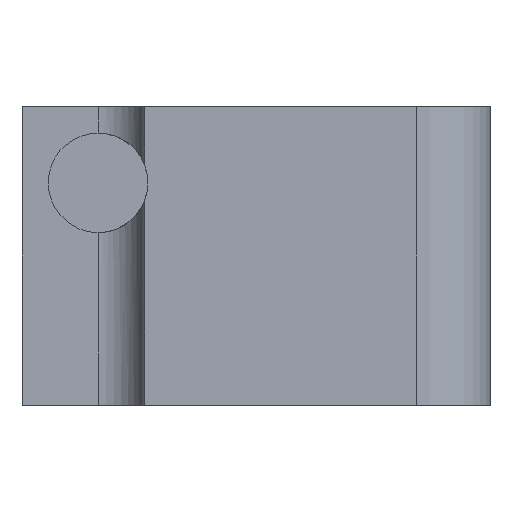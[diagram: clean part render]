
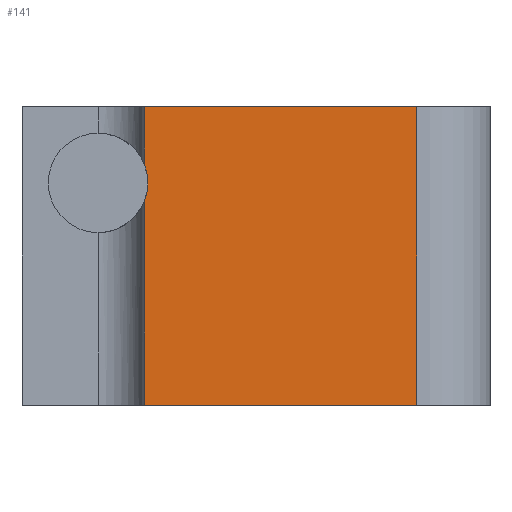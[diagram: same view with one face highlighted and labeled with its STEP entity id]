
A CAD part, front view. The second image highlights one B-rep face of the part: STEP entity #141.
In plain terms, the highlighted planar face has unit normal (0, -1, 0).
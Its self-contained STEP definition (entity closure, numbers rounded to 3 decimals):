
#141 = ADVANCED_FACE( '', ( #291 ), #292, .T. );
#291 = FACE_OUTER_BOUND( '', #450, .T. );
#292 = PLANE( '', #451 );
#450 = EDGE_LOOP( '', ( #967, #968, #969, #970, #971, #972, #973 ) );
#451 = AXIS2_PLACEMENT_3D( '', #974, #975, #976 );
#967 = ORIENTED_EDGE( '', *, *, #1166, .T. );
#968 = ORIENTED_EDGE( '', *, *, #1044, .T. );
#969 = ORIENTED_EDGE( '', *, *, #1205, .F. );
#970 = ORIENTED_EDGE( '', *, *, #1206, .T. );
#971 = ORIENTED_EDGE( '', *, *, #1203, .T. );
#972 = ORIENTED_EDGE( '', *, *, #1207, .T. );
#973 = ORIENTED_EDGE( '', *, *, #1177, .F. );
#974 = CARTESIAN_POINT( '', ( 10.9, -3.5, -7.6 ) );
#975 = DIRECTION( '', ( 0., -1., 0. ) );
#976 = DIRECTION( '', ( 1., 0., 0. ) );
#1044 = EDGE_CURVE( '', #1230, #1228, #1231, .T. );
#1166 = EDGE_CURVE( '', #1434, #1230, #1435, .T. );
#1177 = EDGE_CURVE( '', #1434, #1453, #1454, .T. );
#1203 = EDGE_CURVE( '', #1495, #1493, #1496, .T. );
#1205 = EDGE_CURVE( '', #1498, #1228, #1499, .T. );
#1206 = EDGE_CURVE( '', #1498, #1495, #1500, .T. );
#1207 = EDGE_CURVE( '', #1493, #1453, #1501, .T. );
#1228 = VERTEX_POINT( '', #1543 );
#1230 = VERTEX_POINT( '', #1546 );
#1231 = CIRCLE( '', #1547, 1.7 );
#1434 = VERTEX_POINT( '', #1825 );
#1435 = CIRCLE( '', #1826, 1.7 );
#1453 = VERTEX_POINT( '', #1868 );
#1454 = LINE( '', #1869, #1870 );
#1493 = VERTEX_POINT( '', #1923 );
#1495 = VERTEX_POINT( '', #1925 );
#1496 = LINE( '', #1926, #1927 );
#1498 = VERTEX_POINT( '', #1929 );
#1499 = LINE( '', #1930, #1931 );
#1500 = LINE( '', #1932, #1933 );
#1501 = LINE( '', #1934, #1935 );
#1543 = CARTESIAN_POINT( '', ( 1.6, -3.5, -0.574 ) );
#1546 = CARTESIAN_POINT( '', ( 1.7, -3.5, 0. ) );
#1547 = AXIS2_PLACEMENT_3D( '', #1959, #1960, #1961 );
#1825 = CARTESIAN_POINT( '', ( 1.6, -3.5, 0.574 ) );
#1826 = AXIS2_PLACEMENT_3D( '', #2175, #2176, #2177 );
#1868 = CARTESIAN_POINT( '', ( 1.6, -3.5, 2.6 ) );
#1869 = CARTESIAN_POINT( '', ( 1.6, -3.5, -7.6 ) );
#1870 = VECTOR( '', #2191, 1. );
#1923 = CARTESIAN_POINT( '', ( 10.9, -3.5, 2.6 ) );
#1925 = CARTESIAN_POINT( '', ( 10.9, -3.5, -7.6 ) );
#1926 = CARTESIAN_POINT( '', ( 10.9, -3.5, -7.6 ) );
#1927 = VECTOR( '', #2239, 1. );
#1929 = CARTESIAN_POINT( '', ( 1.6, -3.5, -7.6 ) );
#1930 = CARTESIAN_POINT( '', ( 1.6, -3.5, -7.6 ) );
#1931 = VECTOR( '', #2243, 1. );
#1932 = CARTESIAN_POINT( '', ( 1.6, -3.5, -7.6 ) );
#1933 = VECTOR( '', #2244, 1. );
#1934 = CARTESIAN_POINT( '', ( 1.6, -3.5, 2.6 ) );
#1935 = VECTOR( '', #2245, 1. );
#1959 = CARTESIAN_POINT( '', ( 0., -3.5, 0. ) );
#1960 = DIRECTION( '', ( 0., 1., 0. ) );
#1961 = DIRECTION( '', ( -1., 0., 0. ) );
#2175 = CARTESIAN_POINT( '', ( 0., -3.5, 0. ) );
#2176 = DIRECTION( '', ( 0., 1., 0. ) );
#2177 = DIRECTION( '', ( -1., 0., 0. ) );
#2191 = DIRECTION( '', ( 0., 0., 1. ) );
#2239 = DIRECTION( '', ( 0., 0., 1. ) );
#2243 = DIRECTION( '', ( 0., 0., 1. ) );
#2244 = DIRECTION( '', ( 1., 0., 0. ) );
#2245 = DIRECTION( '', ( -1., 0., 0. ) );
